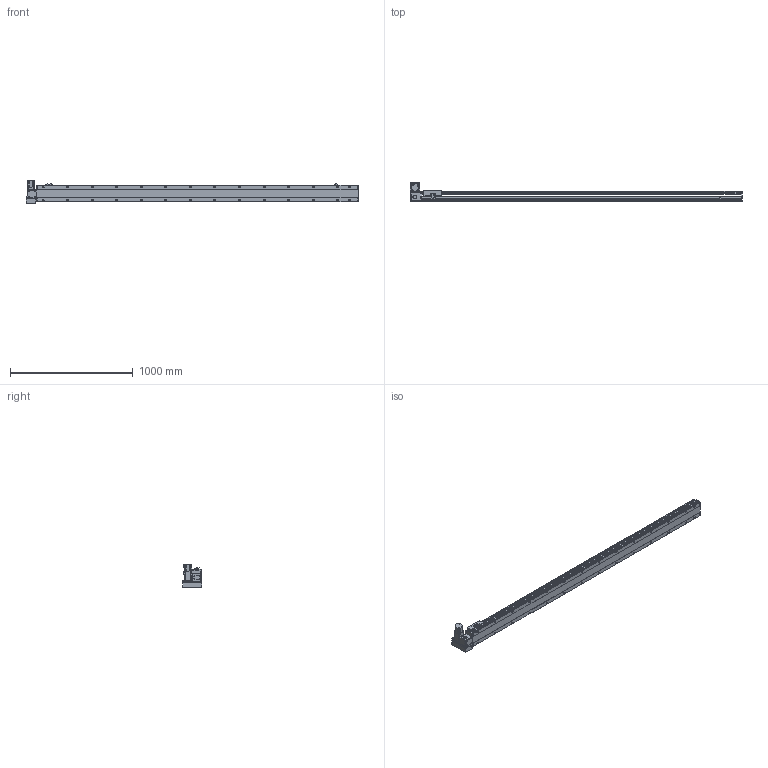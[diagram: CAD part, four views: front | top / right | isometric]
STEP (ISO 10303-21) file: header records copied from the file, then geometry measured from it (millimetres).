
FILE_DESCRIPTION(/* description */ ('STEP AP214'),/* implementation_level */ '2;1');
FILE_NAME(/* name */ 'PBS140S-P40-S2350-LU-T40-C1-N(0)',/* time_stamp */ '2022-06-09T02:36:23+02:00',/* author */ ('License CC BY-ND 4.0'),/* organization */ ('CADENAS'),/* preprocessor_version */ 'ST-DEVELOPER v18.102',/* originating_system */ 'PARTsolutions',/* authorisation */ ' ');
FILE_SCHEMA (('FEATURE_BASED_PROCESS_PLANNING','AUTOMOTIVE_DESIGN {1 0 10303 214 3 1 1}'));
Length unit declared in the file: millimetre
Products named in the file (7): PBS140S-P40-S2350-LU-T40-C1-N(0); PBS140S_sensor; PBS140S_plant; PBS140S_sliser; T40-p1; PBS140ST-LU_motors; PBS140S-S2350()_body
Assembly tree (8 placements, depth 2):
  PBS140S-P40-S2350-LU-T40-C1-N(0)
    PBS140S_sensor  x3
    PBS140S_plant
    PBS140S_sliser
    T40-p1
    PBS140ST-LU_motors
    PBS140S-S2350()_body
Bounding box: 2704 x 162.5 x 189.7 mm (x, y, z)
Volume: 13186336.7 mm3; surface area: 2225330.1 mm2
Topology: 8 solids, 8 shells, 1195 faces, 3151 edges, 2061 vertices
Faces by surface type: plane 738, cylinder 393, cone 54, sphere 8, torus 2
Full cylindrical faces by diameter (mm): 3.242 x4, 4 x2, 4.134 x4, 4.4 x8, 4.5 x2, 4.8 x4, 4.917 x36, 5.5 x7, 6 x2, 7 x30, 7.5 x8, 8 x12, 8.5 x4, 10.5 x28, 14 x1, 30 x2, 50 x2
Entity records: 34244 total; most frequent: CARTESIAN_POINT 6488, DIRECTION 5768, ORIENTED_EDGE 5422, EDGE_CURVE 2711, AXIS2_PLACEMENT_3D 2039, VERTEX_POINT 1897, LINE 1690, VECTOR 1690
